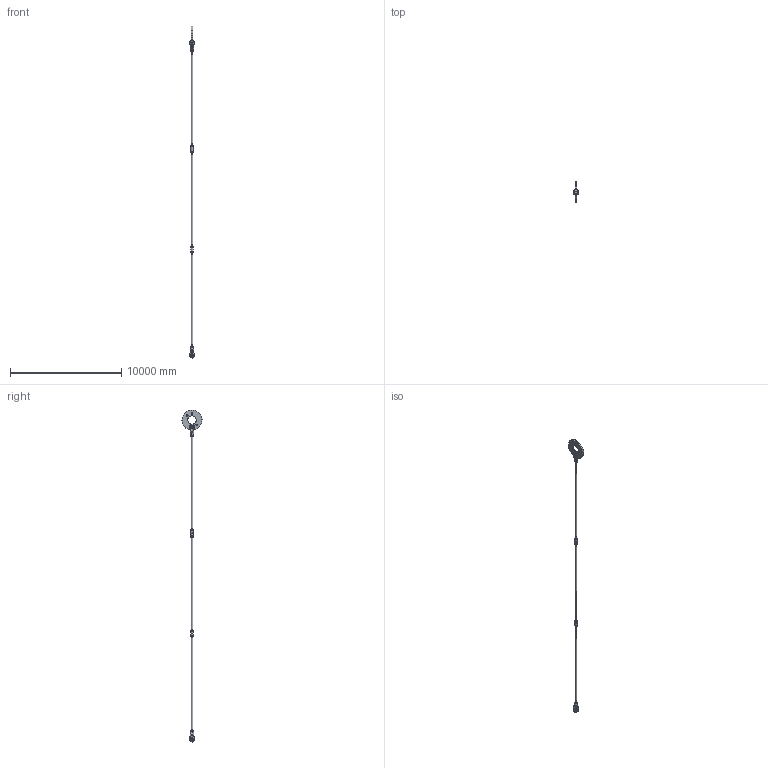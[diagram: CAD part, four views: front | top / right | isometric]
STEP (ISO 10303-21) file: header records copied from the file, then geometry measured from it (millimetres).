
FILE_DESCRIPTION(/* description */ (''),/* implementation_level */ '2;1');
FILE_NAME(/* name */ 'C:\Vault-WS\Anker\Werksnorm\Hochbau\ASDO-System\ASDO-S\für Kunden\3d\Step\M 150.stp',/* time_stamp */ '2014-06-12T09:58:27+02:00',/* author */ ('ritgen'),/* organization */ (''),/* preprocessor_version */ 'ST-DEVELOPER v15.2',/* originating_system */ 'Autodesk Inventor 2014',/* authorisation */ '');
FILE_SCHEMA (('AUTOMOTIVE_DESIGN { 1 0 10303 214 3 1 1 }'));
Length unit declared in the file: millimetre
Products named in the file (11): ASDO-005779; ASDO-014284; ASDO-014334; DIN 7991 - M20x50 - 8.8; ASDO-013953; ASDO-001750; ASDO-001374; ASDO-001473; ASDO-006515; ASDO-014085; ASDO-006514
Bounding box: 376.21 x 1808.28 x 29877.27 mm (x, y, z)
Volume: 902480819.9 mm3; surface area: 24591836.6 mm2
Topology: 24 solids, 24 shells, 507 faces, 1097 edges, 666 vertices
Faces by surface type: plane 156, bspline 144, cylinder 95, cone 60, torus 52
Full cylindrical faces by diameter (mm): 11 x18, 17.294 x4, 20 x4, 22.5 x4, 25 x4, 36 x4, 143.505 x12, 150 x5, 152 x7, 153 x8, 155 x1, 156 x6, 216 x6, 220 x4, 244.5 x2, 750 x1, 1810 x1
Entity records: 14184 total; most frequent: CARTESIAN_POINT 9818, ORIENTED_EDGE 778, DIRECTION 770, EDGE_CURVE 389, AXIS2_PLACEMENT_3D 363, EDGE_LOOP 346, VERTEX_POINT 279, ADVANCED_FACE 221
